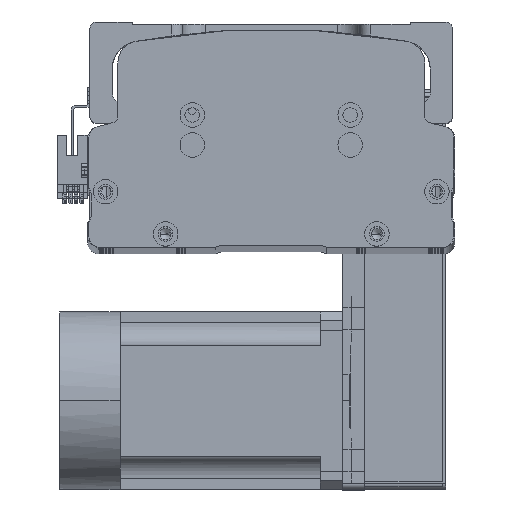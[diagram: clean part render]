
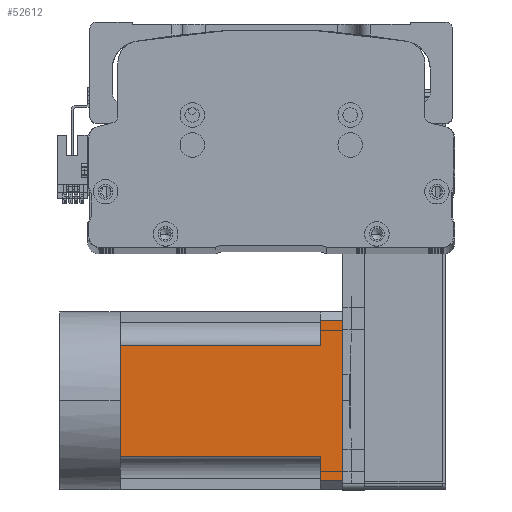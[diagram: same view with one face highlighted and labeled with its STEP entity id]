
A CAD part, top view. The second image highlights one B-rep face of the part: STEP entity #52612.
In plain terms, the highlighted planar face has unit normal (0, 0, 1) as drawn and (0, 0, -1) by its records, which use the part's own axes.
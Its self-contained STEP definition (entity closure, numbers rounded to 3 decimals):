
#599 = CARTESIAN_POINT ( 'NONE',  ( 25., -27., -40. ) ) ;
#2478 = VECTOR ( 'NONE', #54931, 1000. ) ;
#3226 = ORIENTED_EDGE ( 'NONE', *, *, #47611, .T. ) ;
#3292 = DIRECTION ( 'NONE',  ( -1., 0., 0. ) ) ;
#4132 = ORIENTED_EDGE ( 'NONE', *, *, #8269, .T. ) ;
#5776 = VECTOR ( 'NONE', #37016, 1000. ) ;
#7328 = LINE ( 'NONE', #55250, #47844 ) ;
#8269 = EDGE_CURVE ( 'NONE', #51425, #35402, #42999, .T. ) ;
#8741 = EDGE_CURVE ( 'NONE', #10614, #40260, #41264, .T. ) ;
#9277 = DIRECTION ( 'NONE',  ( -1., 0., 0. ) ) ;
#10614 = VERTEX_POINT ( 'NONE', #50802 ) ;
#12621 = CARTESIAN_POINT ( 'NONE',  ( -40., 90., -40. ) ) ;
#13122 = LINE ( 'NONE', #599, #66042 ) ;
#14656 = ORIENTED_EDGE ( 'NONE', *, *, #55820, .T. ) ;
#16723 = DIRECTION ( 'NONE',  ( 0., -1., 0. ) ) ;
#17630 = ORIENTED_EDGE ( 'NONE', *, *, #62325, .T. ) ;
#17870 = CARTESIAN_POINT ( 'NONE',  ( 0., 0., -40. ) ) ;
#18166 = ORIENTED_EDGE ( 'NONE', *, *, #23166, .T. ) ;
#18366 = ORIENTED_EDGE ( 'NONE', *, *, #8741, .T. ) ;
#20460 = CARTESIAN_POINT ( 'NONE',  ( -25., -27., -40. ) ) ;
#20580 = CARTESIAN_POINT ( 'NONE',  ( -36., 90., -40. ) ) ;
#20861 = VECTOR ( 'NONE', #9277, 1000. ) ;
#21023 = CARTESIAN_POINT ( 'NONE',  ( -36., -27., -40. ) ) ;
#22447 = DIRECTION ( 'NONE',  ( -1., 0., 0. ) ) ;
#23166 = EDGE_CURVE ( 'NONE', #41179, #51425, #34423, .T. ) ;
#23643 = DIRECTION ( 'NONE',  ( -1., 0., 0. ) ) ;
#24091 = VERTEX_POINT ( 'NONE', #41046 ) ;
#24977 = LINE ( 'NONE', #40805, #40706 ) ;
#25529 = VECTOR ( 'NONE', #3292, 1000. ) ;
#29012 = CARTESIAN_POINT ( 'NONE',  ( -40., -27., -40. ) ) ;
#29213 = VERTEX_POINT ( 'NONE', #61037 ) ;
#29713 = CARTESIAN_POINT ( 'NONE',  ( -40., 0., -40. ) ) ;
#29852 = EDGE_LOOP ( 'NONE', ( #38663, #3226, #17630, #41110, #18366, #50216, #18166, #4132, #14656 ) ) ;
#30224 = DIRECTION ( 'NONE',  ( 0., -1., 0. ) ) ;
#32337 = LINE ( 'NONE', #21023, #5776 ) ;
#32900 = EDGE_CURVE ( 'NONE', #38188, #32921, #49005, .T. ) ;
#32921 = VERTEX_POINT ( 'NONE', #46325 ) ;
#33210 = EDGE_CURVE ( 'NONE', #40260, #41179, #58839, .T. ) ;
#33856 = PLANE ( 'NONE',  #62280 ) ;
#34296 = DIRECTION ( 'NONE',  ( -1., 0., 0. ) ) ;
#34423 = LINE ( 'NONE', #20460, #60802 ) ;
#35402 = VERTEX_POINT ( 'NONE', #20580 ) ;
#37016 = DIRECTION ( 'NONE',  ( 0., 1., 0. ) ) ;
#37835 = EDGE_CURVE ( 'NONE', #29213, #10614, #13122, .T. ) ;
#38188 = VERTEX_POINT ( 'NONE', #41007 ) ;
#38413 = CARTESIAN_POINT ( 'NONE',  ( -40., 0., -40. ) ) ;
#38663 = ORIENTED_EDGE ( 'NONE', *, *, #32900, .F. ) ;
#40260 = VERTEX_POINT ( 'NONE', #17870 ) ;
#40706 = VECTOR ( 'NONE', #30224, 1000. ) ;
#40805 = CARTESIAN_POINT ( 'NONE',  ( 36., -27., -40. ) ) ;
#41007 = CARTESIAN_POINT ( 'NONE',  ( 36., 100., -40. ) ) ;
#41046 = CARTESIAN_POINT ( 'NONE',  ( 36., 90., -40. ) ) ;
#41110 = ORIENTED_EDGE ( 'NONE', *, *, #37835, .T. ) ;
#41179 = VERTEX_POINT ( 'NONE', #58620 ) ;
#41264 = LINE ( 'NONE', #29713, #25529 ) ;
#42999 = LINE ( 'NONE', #12621, #2478 ) ;
#44381 = FACE_OUTER_BOUND ( 'NONE', #29852, .T. ) ;
#46325 = CARTESIAN_POINT ( 'NONE',  ( -36., 100., -40. ) ) ;
#47611 = EDGE_CURVE ( 'NONE', #38188, #24091, #24977, .T. ) ;
#47844 = VECTOR ( 'NONE', #23643, 1000. ) ;
#49005 = LINE ( 'NONE', #67226, #20861 ) ;
#50216 = ORIENTED_EDGE ( 'NONE', *, *, #33210, .T. ) ;
#50802 = CARTESIAN_POINT ( 'NONE',  ( 25., 0., -40. ) ) ;
#51425 = VERTEX_POINT ( 'NONE', #54146 ) ;
#52612 = ADVANCED_FACE ( 'NONE', ( #44381 ), #33856, .T. ) ;
#54146 = CARTESIAN_POINT ( 'NONE',  ( -25., 90., -40. ) ) ;
#54931 = DIRECTION ( 'NONE',  ( -1., 0., 0. ) ) ;
#55250 = CARTESIAN_POINT ( 'NONE',  ( -40., 90., -40. ) ) ;
#55820 = EDGE_CURVE ( 'NONE', #35402, #32921, #32337, .T. ) ;
#57182 = VECTOR ( 'NONE', #22447, 1000. ) ;
#58620 = CARTESIAN_POINT ( 'NONE',  ( -25., 0., -40. ) ) ;
#58839 = LINE ( 'NONE', #38413, #57182 ) ;
#60802 = VECTOR ( 'NONE', #68466, 1000. ) ;
#61037 = CARTESIAN_POINT ( 'NONE',  ( 25., 90., -40. ) ) ;
#62280 = AXIS2_PLACEMENT_3D ( 'NONE', #29012, #65874, #34296 ) ;
#62325 = EDGE_CURVE ( 'NONE', #24091, #29213, #7328, .T. ) ;
#65874 = DIRECTION ( 'NONE',  ( 0., 0., -1. ) ) ;
#66042 = VECTOR ( 'NONE', #16723, 1000. ) ;
#67226 = CARTESIAN_POINT ( 'NONE',  ( -40., 100., -40. ) ) ;
#68466 = DIRECTION ( 'NONE',  ( 0., 1., 0. ) ) ;
